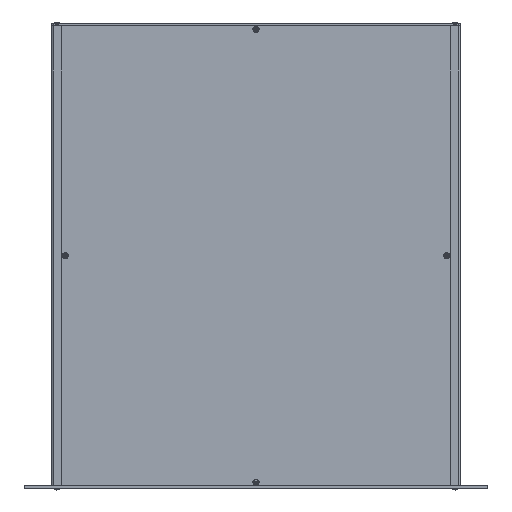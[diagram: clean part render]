
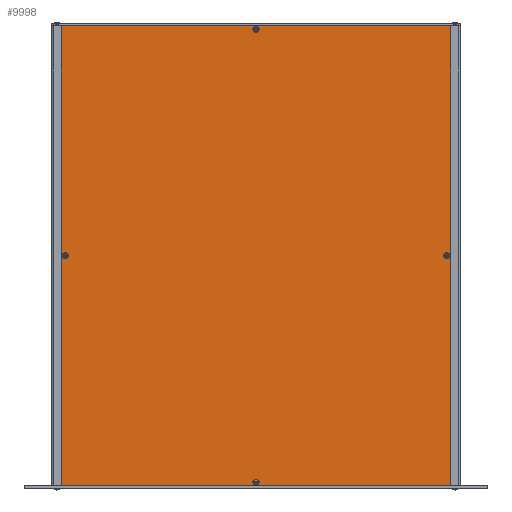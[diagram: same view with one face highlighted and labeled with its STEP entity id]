
A CAD part, top view. The second image highlights one B-rep face of the part: STEP entity #9998.
In plain terms, the highlighted planar face has unit normal (0, 0, 1).
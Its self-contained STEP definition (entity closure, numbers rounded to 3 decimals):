
#715=FACE_BOUND('',#1956,.T.);
#716=FACE_BOUND('',#1957,.T.);
#717=FACE_BOUND('',#1958,.T.);
#718=FACE_BOUND('',#1959,.T.);
#1072=PLANE('',#10913);
#1362=FACE_OUTER_BOUND('',#1955,.T.);
#1955=EDGE_LOOP('',(#7490,#7491,#7492,#7493));
#1956=EDGE_LOOP('',(#7494));
#1957=EDGE_LOOP('',(#7495));
#1958=EDGE_LOOP('',(#7496));
#1959=EDGE_LOOP('',(#7497));
#2923=LINE('',#15671,#3668);
#2924=LINE('',#15673,#3669);
#2925=LINE('',#15675,#3670);
#2926=LINE('',#15676,#3671);
#3668=VECTOR('',#12513,10.);
#3669=VECTOR('',#12514,10.);
#3670=VECTOR('',#12515,10.);
#3671=VECTOR('',#12516,10.);
#4223=CIRCLE('',#10909,3.2);
#4226=CIRCLE('',#10914,3.2);
#4227=CIRCLE('',#10915,3.2);
#4228=CIRCLE('',#10916,3.2);
#4860=VERTEX_POINT('',#15659);
#4863=VERTEX_POINT('',#15669);
#4864=VERTEX_POINT('',#15670);
#4865=VERTEX_POINT('',#15672);
#4866=VERTEX_POINT('',#15674);
#4867=VERTEX_POINT('',#15677);
#4868=VERTEX_POINT('',#15679);
#4869=VERTEX_POINT('',#15681);
#5822=EDGE_CURVE('',#4860,#4860,#4223,.T.);
#5827=EDGE_CURVE('',#4863,#4864,#2923,.T.);
#5828=EDGE_CURVE('',#4864,#4865,#2924,.T.);
#5829=EDGE_CURVE('',#4866,#4865,#2925,.T.);
#5830=EDGE_CURVE('',#4863,#4866,#2926,.T.);
#5831=EDGE_CURVE('',#4867,#4867,#4226,.T.);
#5832=EDGE_CURVE('',#4868,#4868,#4227,.T.);
#5833=EDGE_CURVE('',#4869,#4869,#4228,.T.);
#7490=ORIENTED_EDGE('',*,*,#5827,.T.);
#7491=ORIENTED_EDGE('',*,*,#5828,.T.);
#7492=ORIENTED_EDGE('',*,*,#5829,.F.);
#7493=ORIENTED_EDGE('',*,*,#5830,.F.);
#7494=ORIENTED_EDGE('',*,*,#5831,.F.);
#7495=ORIENTED_EDGE('',*,*,#5832,.F.);
#7496=ORIENTED_EDGE('',*,*,#5833,.F.);
#7497=ORIENTED_EDGE('',*,*,#5822,.F.);
#9998=ADVANCED_FACE('',(#1362,#715,#716,#717,#718),#1072,.T.);
#10909=AXIS2_PLACEMENT_3D('',#15660,#12501,#12502);
#10913=AXIS2_PLACEMENT_3D('',#15668,#12511,#12512);
#10914=AXIS2_PLACEMENT_3D('',#15678,#12517,#12518);
#10915=AXIS2_PLACEMENT_3D('',#15680,#12519,#12520);
#10916=AXIS2_PLACEMENT_3D('',#15682,#12521,#12522);
#12501=DIRECTION('center_axis',(0.,0.,1.));
#12502=DIRECTION('ref_axis',(-1.,0.,0.));
#12511=DIRECTION('center_axis',(0.,0.,1.));
#12512=DIRECTION('ref_axis',(1.,0.,0.));
#12513=DIRECTION('',(1.,0.,0.));
#12514=DIRECTION('',(0.,1.,0.));
#12515=DIRECTION('',(1.,0.,0.));
#12516=DIRECTION('',(0.,1.,0.));
#12517=DIRECTION('center_axis',(0.,0.,1.));
#12518=DIRECTION('ref_axis',(-1.,0.,0.));
#12519=DIRECTION('center_axis',(0.,0.,1.));
#12520=DIRECTION('ref_axis',(-1.,0.,0.));
#12521=DIRECTION('center_axis',(0.,0.,1.));
#12522=DIRECTION('ref_axis',(-1.,0.,0.));
#15659=CARTESIAN_POINT('',(45.5,240.,-42.05));
#15660=CARTESIAN_POINT('Origin',(42.3,240.,-42.05));
#15668=CARTESIAN_POINT('Origin',(38.4,0.,-42.05));
#15669=CARTESIAN_POINT('',(38.4,0.,-42.05));
#15670=CARTESIAN_POINT('',(444.6,0.,-42.05));
#15671=CARTESIAN_POINT('',(38.4,0.,-42.05));
#15672=CARTESIAN_POINT('',(444.6,480.,-42.05));
#15673=CARTESIAN_POINT('',(444.6,0.,-42.05));
#15674=CARTESIAN_POINT('',(38.4,480.,-42.05));
#15675=CARTESIAN_POINT('',(38.4,480.,-42.05));
#15676=CARTESIAN_POINT('',(38.4,0.,-42.05));
#15677=CARTESIAN_POINT('',(443.9,240.,-42.05));
#15678=CARTESIAN_POINT('Origin',(440.7,240.,-42.05));
#15679=CARTESIAN_POINT('',(244.7,476.5,-42.05));
#15680=CARTESIAN_POINT('Origin',(241.5,476.5,-42.05));
#15681=CARTESIAN_POINT('',(244.7,3.5,-42.05));
#15682=CARTESIAN_POINT('Origin',(241.5,3.5,-42.05));
